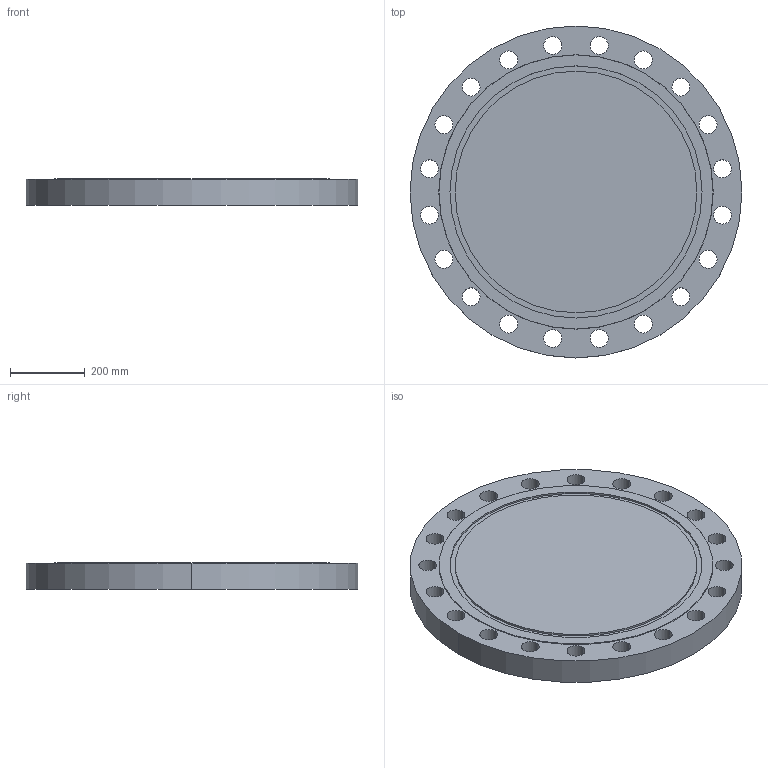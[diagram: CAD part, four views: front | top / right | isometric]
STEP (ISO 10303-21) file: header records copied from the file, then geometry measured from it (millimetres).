
FILE_DESCRIPTION (( 'STEP AP214' ), '1' );
FILE_NAME ('PN40 DN600 Type 05 - Type D Face.STEP', '2018-12-28T23:14:27', ( '' ), ( '' ), 'SwSTEP 2.0', 'SolidWorks 2019', '' );
FILE_SCHEMA (( 'AUTOMOTIVE_DESIGN' ));
Length unit declared in the file: millimetre
Products named in the file (1): PN40 DN600 Type 05 - Type D Face
Bounding box: 890 x 890 x 72 mm (x, y, z)
Volume: 41718408.3 mm3; surface area: 1603356 mm2
Topology: 1 solids, 1 shells, 53 faces, 144 edges, 96 vertices
Faces by surface type: cylinder 46, plane 5, cone 2
Entity records: 1848 total; most frequent: DIRECTION 348, CARTESIAN_POINT 294, ORIENTED_EDGE 288, AXIS2_PLACEMENT_3D 150, EDGE_CURVE 144, CIRCLE 96, EDGE_LOOP 96, VERTEX_POINT 96
